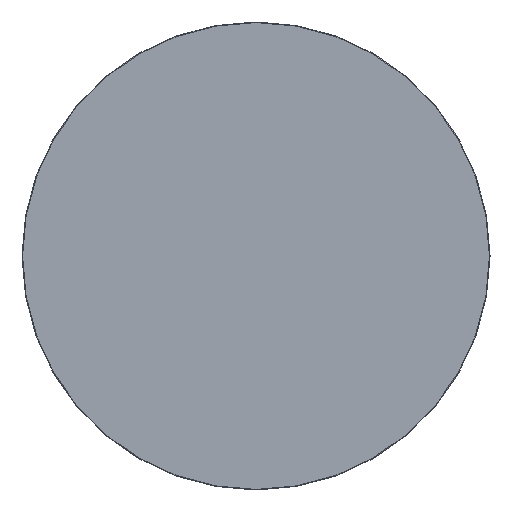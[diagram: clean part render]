
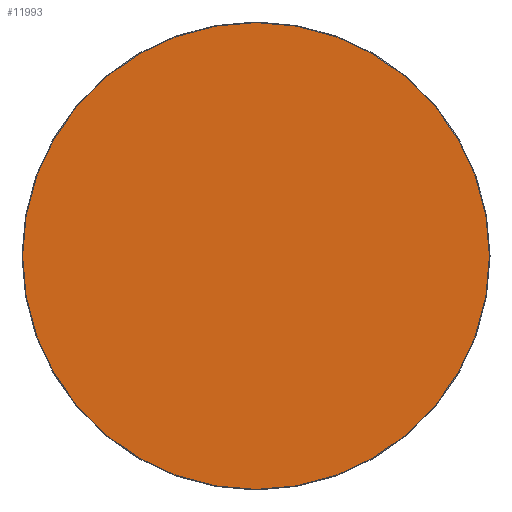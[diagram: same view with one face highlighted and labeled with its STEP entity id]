
A CAD part, top view. The second image highlights one B-rep face of the part: STEP entity #11993.
In plain terms, the highlighted planar face has unit normal (0, 0, 1).
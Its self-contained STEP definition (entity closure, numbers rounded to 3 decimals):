
#11918=CARTESIAN_POINT('',(0.,0.,20.));
#11919=DIRECTION('',(1.,0.,0.));
#11920=DIRECTION('',(0.,0.,1.));
#11921=AXIS2_PLACEMENT_3D('',#11918,#11920,#11919);
#11922=PLANE('',#11921);
#11923=CARTESIAN_POINT('',(-0.5,-598.5,20.));
#11924=VERTEX_POINT('',#11923);
#11925=CARTESIAN_POINT('',(0.5,-598.5,20.));
#11926=VERTEX_POINT('',#11925);
#11927=CARTESIAN_POINT('',(-0.5,-598.5,20.));
#11928=DIRECTION('',(1.,0.,0.));
#11929=VECTOR('',#11928,1.);
#11930=LINE('',#11927,#11929);
#11931=EDGE_CURVE('',#11924,#11926,#11930,.T.);
#11932=ORIENTED_EDGE('E105',*,*,#11931,.T.);
#11933=CARTESIAN_POINT('',(598.5,-0.5,20.));
#11934=VERTEX_POINT('',#11933);
#11935=CARTESIAN_POINT('',(0.5,-0.5,20.));
#11936=DIRECTION('',(0.,-1.,0.));
#11937=DIRECTION('',(0.,-0.,1.));
#11938=AXIS2_PLACEMENT_3D('',#11935,#11937,#11936);
#11939=CIRCLE('',#11938,598.);
#11940=EDGE_CURVE('',#11926,#11934,#11939,.T.);
#11941=ORIENTED_EDGE('E107',*,*,#11940,.T.);
#11942=CARTESIAN_POINT('',(598.5,0.5,20.));
#11943=VERTEX_POINT('',#11942);
#11944=CARTESIAN_POINT('',(598.5,-0.5,20.));
#11945=DIRECTION('',(0.,1.,0.));
#11946=VECTOR('',#11945,1.);
#11947=LINE('',#11944,#11946);
#11948=EDGE_CURVE('',#11934,#11943,#11947,.T.);
#11949=ORIENTED_EDGE('E109',*,*,#11948,.T.);
#11950=CARTESIAN_POINT('',(0.5,598.5,20.));
#11951=VERTEX_POINT('',#11950);
#11952=CARTESIAN_POINT('',(0.5,0.5,20.));
#11953=DIRECTION('',(1.,0.,0.));
#11954=DIRECTION('',(0.,0.,1.));
#11955=AXIS2_PLACEMENT_3D('',#11952,#11954,#11953);
#11956=CIRCLE('',#11955,598.);
#11957=EDGE_CURVE('',#11943,#11951,#11956,.T.);
#11958=ORIENTED_EDGE('E111',*,*,#11957,.T.);
#11959=CARTESIAN_POINT('',(-0.5,598.5,20.));
#11960=VERTEX_POINT('',#11959);
#11961=CARTESIAN_POINT('',(0.5,598.5,20.));
#11962=DIRECTION('',(-1.,0.,0.));
#11963=VECTOR('',#11962,1.);
#11964=LINE('',#11961,#11963);
#11965=EDGE_CURVE('',#11951,#11960,#11964,.T.);
#11966=ORIENTED_EDGE('E113',*,*,#11965,.T.);
#11967=CARTESIAN_POINT('',(-598.5,0.5,20.));
#11968=VERTEX_POINT('',#11967);
#11969=CARTESIAN_POINT('',(-0.5,0.5,20.));
#11970=DIRECTION('',(0.,1.,0.));
#11971=DIRECTION('',(0.,0.,1.));
#11972=AXIS2_PLACEMENT_3D('',#11969,#11971,#11970);
#11973=CIRCLE('',#11972,598.);
#11974=EDGE_CURVE('',#11960,#11968,#11973,.T.);
#11975=ORIENTED_EDGE('E115',*,*,#11974,.T.);
#11976=CARTESIAN_POINT('',(-598.5,-0.5,20.));
#11977=VERTEX_POINT('',#11976);
#11978=CARTESIAN_POINT('',(-598.5,0.5,20.));
#11979=DIRECTION('',(0.,-1.,0.));
#11980=VECTOR('',#11979,1.);
#11981=LINE('',#11978,#11980);
#11982=EDGE_CURVE('',#11968,#11977,#11981,.T.);
#11983=ORIENTED_EDGE('E117',*,*,#11982,.T.);
#11984=CARTESIAN_POINT('',(-0.5,-0.5,20.));
#11985=DIRECTION('',(-1.,0.,0.));
#11986=DIRECTION('',(0.,0.,1.));
#11987=AXIS2_PLACEMENT_3D('',#11984,#11986,#11985);
#11988=CIRCLE('',#11987,598.);
#11989=EDGE_CURVE('',#11977,#11924,#11988,.T.);
#11990=ORIENTED_EDGE('E119',*,*,#11989,.T.);
#11991=EDGE_LOOP('',(#11932,#11941,#11949,#11958,#11966,#11975,#11983,#11990));
#11992=FACE_OUTER_BOUND('',#11991,.T.);
#11993=ADVANCED_FACE('F2',(#11992),#11922,.T.);
